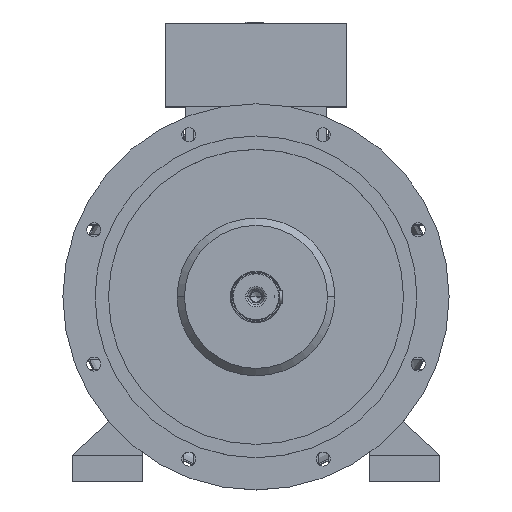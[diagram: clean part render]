
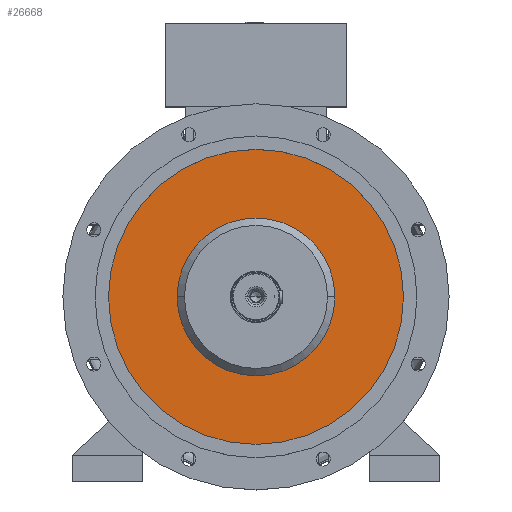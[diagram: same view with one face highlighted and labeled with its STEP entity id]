
A CAD part, top view. The second image highlights one B-rep face of the part: STEP entity #26668.
In plain terms, the highlighted planar face has unit normal (0, 0, 1).
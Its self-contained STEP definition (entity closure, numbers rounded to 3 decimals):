
#150 = AXIS2_PLACEMENT_3D ( 'NONE', #1122, #11764, #17798 ) ;
#1122 = CARTESIAN_POINT ( 'NONE',  ( 0., 0., 455.4 ) ) ;
#3499 = CARTESIAN_POINT ( 'NONE',  ( -134.8, 0., 455.4 ) ) ;
#4145 = ORIENTED_EDGE ( 'NONE', *, *, #11098, .T. ) ;
#4167 = CIRCLE ( 'NONE', #21000, 134.8 ) ;
#4266 = CARTESIAN_POINT ( 'NONE',  ( 0., 0., 455.4 ) ) ;
#4408 = DIRECTION ( 'NONE',  ( 0., 0., 1. ) ) ;
#5708 = ORIENTED_EDGE ( 'NONE', *, *, #16123, .T. ) ;
#5869 = EDGE_CURVE ( 'NONE', #22591, #11132, #9487, .T. ) ;
#6224 = VERTEX_POINT ( 'NONE', #3499 ) ;
#7370 = FACE_BOUND ( 'NONE', #8091, .T. ) ;
#7628 = ORIENTED_EDGE ( 'NONE', *, *, #5869, .T. ) ;
#7655 = CARTESIAN_POINT ( 'NONE',  ( 252.083, 0., 455.4 ) ) ;
#8091 = EDGE_LOOP ( 'NONE', ( #4145, #22902 ) ) ;
#8193 = DIRECTION ( 'NONE',  ( -1., 0., 0. ) ) ;
#9346 = FACE_OUTER_BOUND ( 'NONE', #14799, .T. ) ;
#9363 = CIRCLE ( 'NONE', #150, 134.8 ) ;
#9487 = CIRCLE ( 'NONE', #27312, 252.083 ) ;
#9998 = VERTEX_POINT ( 'NONE', #22484 ) ;
#11027 = DIRECTION ( 'NONE',  ( 0., 0., 1. ) ) ;
#11098 = EDGE_CURVE ( 'NONE', #6224, #9998, #9363, .T. ) ;
#11132 = VERTEX_POINT ( 'NONE', #7655 ) ;
#11764 = DIRECTION ( 'NONE',  ( 0., 0., -1. ) ) ;
#12412 = AXIS2_PLACEMENT_3D ( 'NONE', #17233, #11027, #21290 ) ;
#12825 = PLANE ( 'NONE',  #26315 ) ;
#14799 = EDGE_LOOP ( 'NONE', ( #7628, #5708 ) ) ;
#15392 = EDGE_CURVE ( 'NONE', #9998, #6224, #4167, .T. ) ;
#16123 = EDGE_CURVE ( 'NONE', #11132, #22591, #22007, .T. ) ;
#16900 = CARTESIAN_POINT ( 'NONE',  ( 0., 0., 455.4 ) ) ;
#16989 = DIRECTION ( 'NONE',  ( 1., 0., 0. ) ) ;
#17080 = CARTESIAN_POINT ( 'NONE',  ( 0., 252.083, 455.4 ) ) ;
#17233 = CARTESIAN_POINT ( 'NONE',  ( 0., 0., 455.4 ) ) ;
#17798 = DIRECTION ( 'NONE',  ( -1., 0., 0. ) ) ;
#19513 = CARTESIAN_POINT ( 'NONE',  ( -252.083, 0., 455.4 ) ) ;
#21000 = AXIS2_PLACEMENT_3D ( 'NONE', #16900, #25220, #22833 ) ;
#21290 = DIRECTION ( 'NONE',  ( -1., 0., 0. ) ) ;
#22007 = CIRCLE ( 'NONE', #12412, 252.083 ) ;
#22484 = CARTESIAN_POINT ( 'NONE',  ( 134.8, 0., 455.4 ) ) ;
#22591 = VERTEX_POINT ( 'NONE', #19513 ) ;
#22833 = DIRECTION ( 'NONE',  ( -1., 0., 0. ) ) ;
#22902 = ORIENTED_EDGE ( 'NONE', *, *, #15392, .T. ) ;
#25220 = DIRECTION ( 'NONE',  ( 0., 0., -1. ) ) ;
#25433 = DIRECTION ( 'NONE',  ( 0., 0., 1. ) ) ;
#26315 = AXIS2_PLACEMENT_3D ( 'NONE', #17080, #4408, #16989 ) ;
#26668 = ADVANCED_FACE ( 'NONE', ( #9346, #7370 ), #12825, .T. ) ;
#27312 = AXIS2_PLACEMENT_3D ( 'NONE', #4266, #25433, #8193 ) ;
